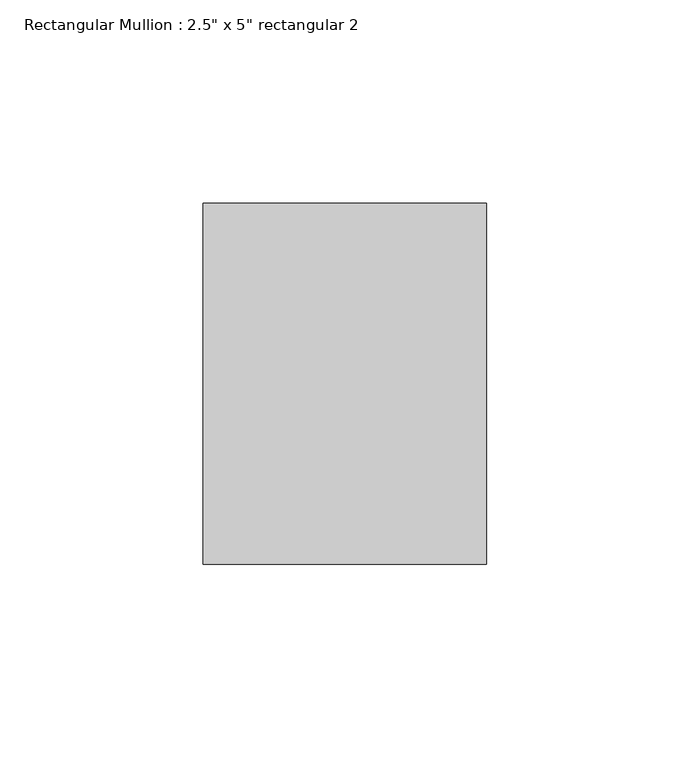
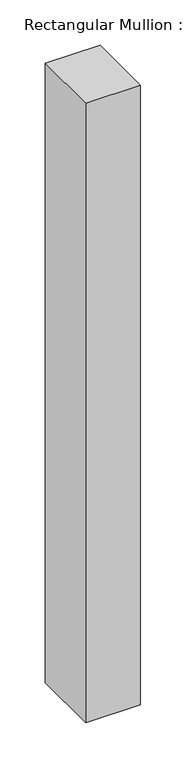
"""IFC4 building model written with IfcOpenShell, lengths in millimetres: member geometry."""

from ifc_helpers import new_model, si_unit, frame, origin, place, context, project, spatial, polyline, outline, extrude, source, transform, mapped, element, save


def member_3c992937(model_context):
    return source(origin(), model_context, "Body", "SweptSolid", [
        extrude(outline(polyline([(0.0, 44.45), (0.0, -44.45), (-69.85, -44.45), (-69.85, 44.45), (0.0, 44.45)])), frame((0.0, 0.0, -833.9666667), z_axis=(0.0, 0.0, 1.0), x_axis=(1.0, 0.0, 0.0)), (0.0, 0.0, 1.0), 833.9666667),
    ])


if __name__ == "__main__":
    model = new_model("IFC4")
    model_context = context("Model", 3, world=origin())
    ifc_project = project(units=[si_unit("LENGTHUNIT", "METRE", prefix="MILLI")], contexts=[model_context])
    site = spatial("IfcSite", under=ifc_project)
    building = spatial("IfcBuilding", under=site)
    placement = place(None, origin())
    member_shape = member_3c992937(model_context)
    element("IfcMember", 1, ObjectType="Rectangular Mullion : 2.5\" x 5\" rectangular 2", at=placement, inside=building, context=model_context, shape_type="MappedRepresentation", body=[
        mapped(member_shape, transform((0.0, 0.0, 0.0), x_axis=(1.0, 0.0, 0.0), y_axis=(0.0, 1.0, 0.0), z_axis=(0.0, 0.0, 1.0))),
    ])
    save(model, "model.ifc")
